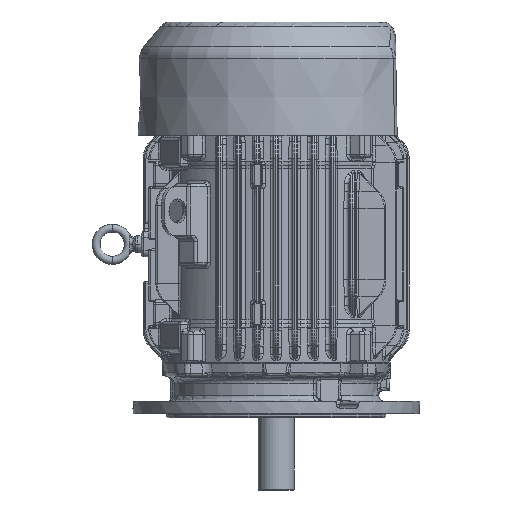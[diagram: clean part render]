
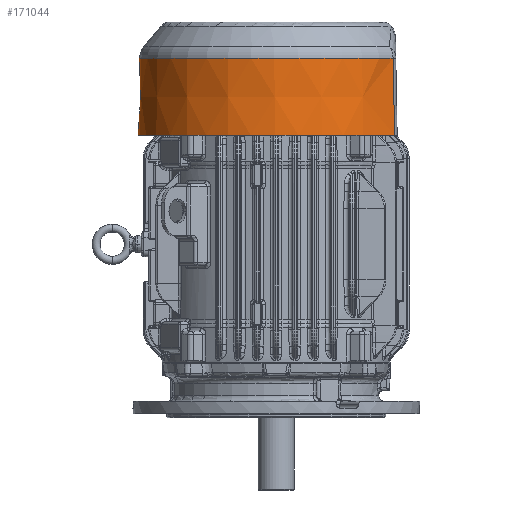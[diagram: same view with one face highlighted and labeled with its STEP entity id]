
A CAD part, left-side view. The second image highlights one B-rep face of the part: STEP entity #171044.
In plain terms, the highlighted conical face has half-angle 1 degrees and reference radius 144.442 mm.
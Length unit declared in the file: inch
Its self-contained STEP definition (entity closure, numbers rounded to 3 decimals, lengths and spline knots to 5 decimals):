
#167082=CARTESIAN_POINT('',(-2.9537,-4.89206,0.));
#167094=CARTESIAN_POINT('',(2.9537,-4.89206,0.));
#167100=CARTESIAN_POINT('',(-2.94015,-4.83504,
-3.19811));
#167101=CARTESIAN_POINT('',(-2.94164,-4.84129,
-2.84735));
#167102=CARTESIAN_POINT('',(-2.94461,-4.85382,
-2.14348));
#167103=CARTESIAN_POINT('',(-2.94888,-4.87175,
-1.13907));
#167104=CARTESIAN_POINT('',(-2.95206,-4.88516,
-0.38695));
#167105=CARTESIAN_POINT('',(-2.9537,-4.89206,0.));
#167107=CARTESIAN_POINT('',(0.,0.,-3.19811));
#167108=DIRECTION('',(0.,0.,-1.));
#167109=DIRECTION('',(-0.52,-0.854,0.));
#167110=AXIS2_PLACEMENT_3D('',#167107,#167108,#167109);
#167112=CARTESIAN_POINT('',(2.9537,-4.89206,0.));
#167113=CARTESIAN_POINT('',(2.95268,-4.88775,
-0.24197));
#167114=CARTESIAN_POINT('',(2.95058,-4.87893,
-0.73631));
#167115=CARTESIAN_POINT('',(2.94734,-4.86529,
-1.50131));
#167116=CARTESIAN_POINT('',(2.9439,-4.85081,
-2.31281));
#167117=CARTESIAN_POINT('',(2.94142,-4.8404,
-2.89654));
#167118=CARTESIAN_POINT('',(2.94014,-4.83501,
-3.19811));
#167120=CARTESIAN_POINT('',(0.,0.,0.));
#167121=DIRECTION('',(0.,0.,1.));
#167122=DIRECTION('',(0.517,-0.856,0.));
#167123=AXIS2_PLACEMENT_3D('',#167120,#167121,#167122);
#170159=VERTEX_POINT('',#167082);
#170162=VERTEX_POINT('',#167100);
#170170=CARTESIAN_POINT('',(2.94006,-4.83506,
-3.19811));
#170171=VERTEX_POINT('',#170170);
#170173=VERTEX_POINT('',#167094);
#171031=CARTESIAN_POINT('',(0.,0.,-1.59906));
#171032=DIRECTION('',(0.,0.,1.));
#171033=DIRECTION('',(0.,1.,0.));
#171034=AXIS2_PLACEMENT_3D('',#171031,#171032,#171033);
#171035=CONICAL_SURFACE('',#171034,5.68669,1.);
#171036=ORIENTED_EDGE('',*,*,#171012,.F.);
#171038=ORIENTED_EDGE('',*,*,#171037,.T.);
#171040=ORIENTED_EDGE('',*,*,#171039,.F.);
#171041=ORIENTED_EDGE('',*,*,#171023,.T.);
#171042=EDGE_LOOP('',(#171036,#171038,#171040,#171041));
#171043=FACE_OUTER_BOUND('',#171042,.F.);
#171044=ADVANCED_FACE('',(#171043),#171035,.T.);
#167106=B_SPLINE_CURVE_WITH_KNOTS('',3,(#167100,#167101,#167102,#167103,#167104,
#167105),.UNSPECIFIED.,.F.,.F.,(4,1,1,4),(0.,0.33333,
0.66667,1.),.UNSPECIFIED.);
#167111=CIRCLE('',#167110,5.65878);
#167119=B_SPLINE_CURVE_WITH_KNOTS('',3,(#167112,#167113,#167114,#167115,#167116,
#167117,#167118),.UNSPECIFIED.,.F.,.F.,(4,1,1,1,4),(0.,0.25,0.5,0.75,
1.),.UNSPECIFIED.);
#167124=CIRCLE('',#167123,5.7146);
#171012=EDGE_CURVE('',#170162,#170159,#167106,.T.);
#171023=EDGE_CURVE('',#170173,#170159,#167124,.T.);
#171037=EDGE_CURVE('',#170162,#170171,#167111,.T.);
#171039=EDGE_CURVE('',#170173,#170171,#167119,.T.);
